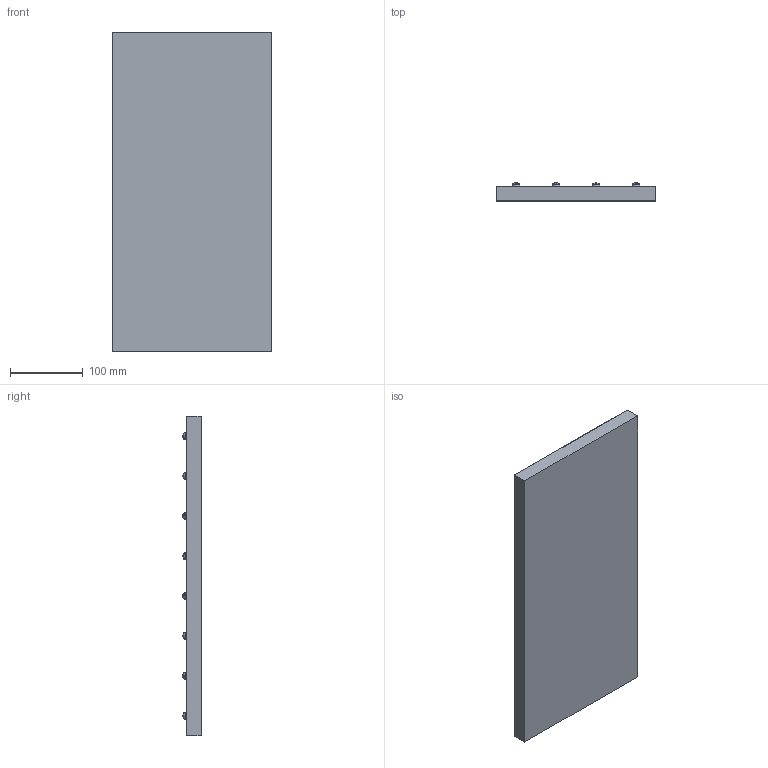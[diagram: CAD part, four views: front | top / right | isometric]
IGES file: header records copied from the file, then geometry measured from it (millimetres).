
Start section: SolidWorks IGES file using analytic representation for surfaces
Global section: file name: C:\Users\KAFLARNIA\Desktop\Modele CeramicWall\MODELE STRONA\Loft\Loft_44x22_IGES.IGS; native system: SolidWorks 2020; preprocessor: SolidWorks 2020; author: KAFLARNIA; date: 220531.081718; units: millimetre
Bounding box: 220 x 24.89 x 440 mm (x, y, z)
Surface area: 221882.2 mm2 (no closed solid volume)
Topology: 0 solids, 0 shells, 242 faces, 3628 edges, 4226 vertices
Faces by surface type: bspline 190, revolution 52
